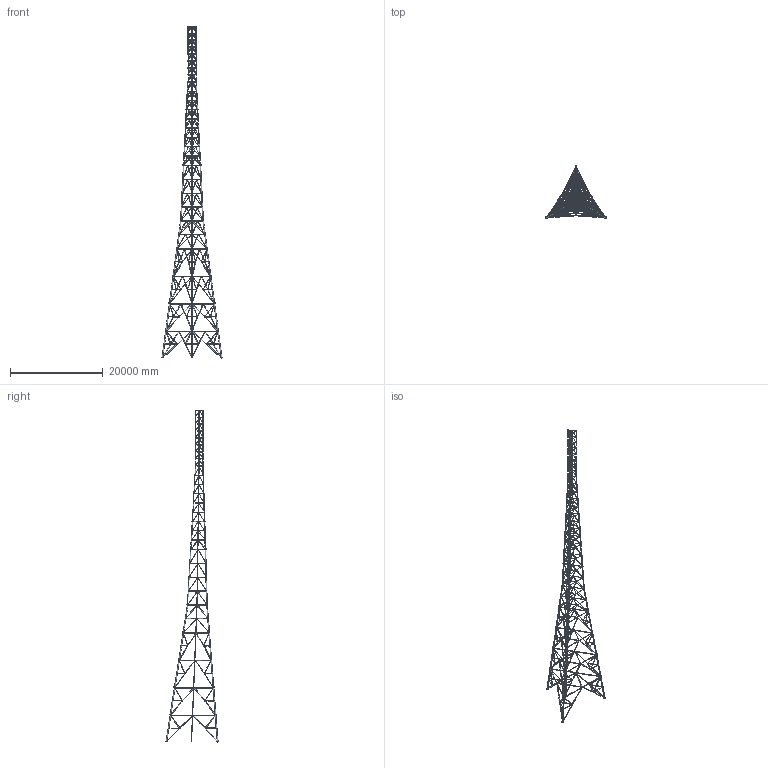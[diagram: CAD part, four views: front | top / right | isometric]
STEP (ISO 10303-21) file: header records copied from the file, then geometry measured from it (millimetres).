
FILE_DESCRIPTION(('Open CASCADE Model'),'2;1');
FILE_NAME('Open CASCADE Shape Model','2026-10-09T22:15:26',('Author'),( 'Open CASCADE'),'Open CASCADE STEP processor 8.0','Open CASCADE 8.0' ,'Unknown');
FILE_SCHEMA(('AUTOMOTIVE_DESIGN { 1 0 10303 214 1 1 1 1 }'));
Length unit declared in the file: millimetre
Products named in the file (15): T1800-72 STD (W72-18-128) â model poglÄdowy; S-1; S-2; S-3; S-4; S-5; S-6; S-7; S-8; S-9; S-10; S-11; S-12; zlacza; drabina
Assembly tree (14 placements, depth 2):
  T1800-72 STD (W72-18-128) â model poglÄdowy
    S-1
    S-2
    S-3
    S-4
    S-5
    S-6
    S-7
    S-8
    S-9
    S-10
    S-11
    S-12
    zlacza
    drabina
Bounding box: 13225 x 11510.13 x 71688.87 mm (x, y, z)
Volume: 2600751371.7 mm3; surface area: 797182401 mm2
Topology: 1095 solids, 1095 shells, 6054 faces, 11592 edges, 7728 vertices
Faces by surface type: plane 4110, cylinder 1944
Full cylindrical faces by diameter (mm): 18 x18, 20 x72, 22 x144, 24 x90, 28 x180, 30 x36, 32.4 x72, 33 x90, 42.4 x72, 44 x90, 50.3 x141, 54 x90, 60 x30, 60.3 x141, 66.1 x30, 70 x30, 76.1 x30, 78.9 x36, 81.6 x12, 83.9 x6, 88.9 x36, 91.6 x66, 94.3 x18, 101.6 x72, 104.3 x42, 108 x9, 114.3 x48, 120.5 x6, 129.7 x15, 133 x9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
Entity records: 314429 total; most frequent: CARTESIAN_POINT 56793, DIRECTION 47272, LINE 24408, VECTOR 24408, ORIENTED_EDGE 23184, PCURVE 23184, DEFINITIONAL_REPRESENTATION 23184, EDGE_CURVE 11592
